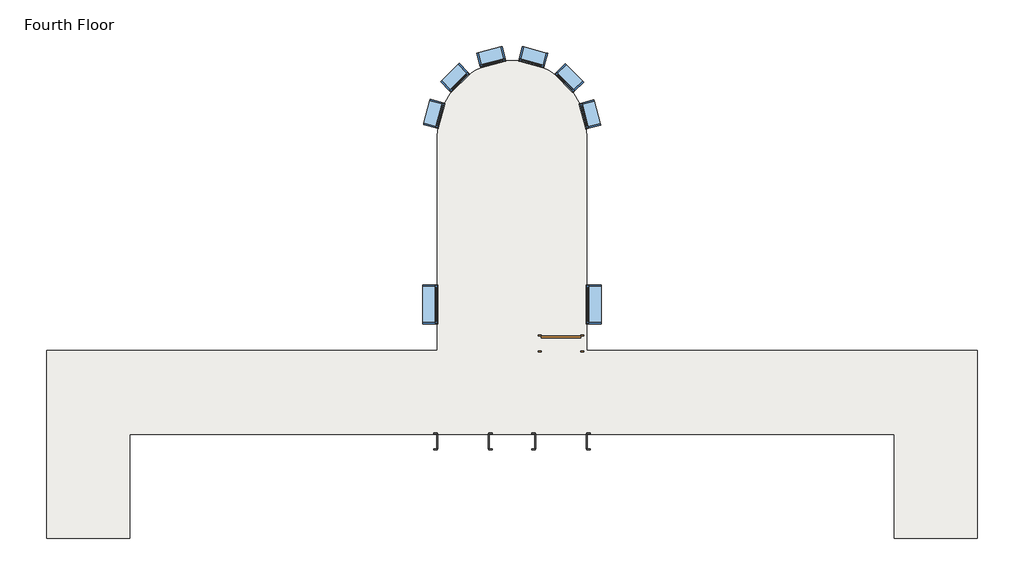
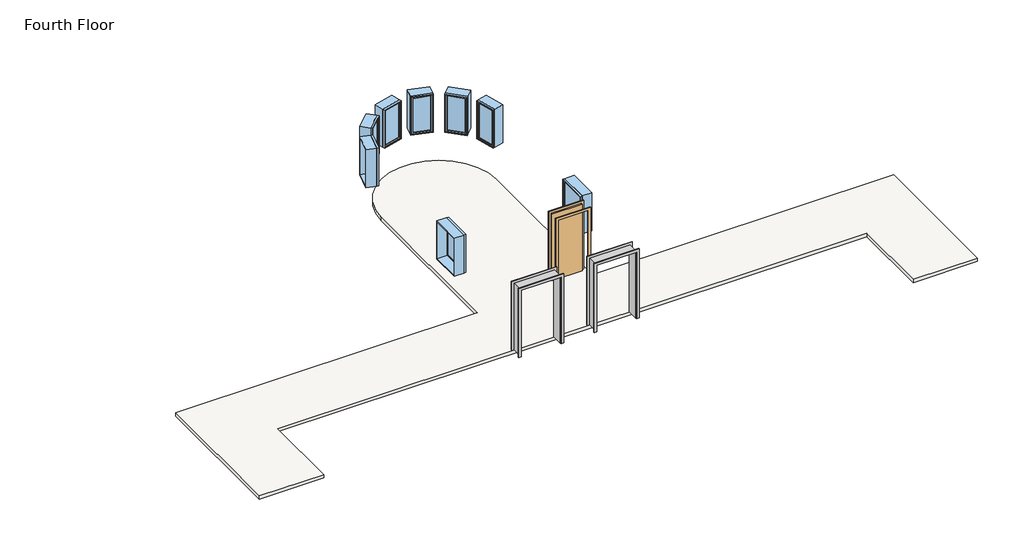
# One storey: 8 windows, 2 proxies, 1 door, 1 slab.
"""IFC4 building model written with IfcOpenShell, lengths in millimetres."""

from ifc_helpers import new_model, si_unit, point, frame, frame_2d, origin, place, context, project, spatial, polyline, circle_curve, trimmed, segment, composite_curve, outline, extrude, transform, mapped, element, save
from components import proxy_c3589814, door_632be17d, window_60baf983, window_15c49d37

model = new_model("IFC4")

# Units and contexts
model_context = context("Model", 3, world=origin())
ifc_project = project(units=[si_unit("LENGTHUNIT", "METRE", prefix="MILLI")], contexts=[model_context])

# Site, building, storey
site = spatial("IfcSite", under=ifc_project)
building = spatial("IfcBuilding", under=site)
storey = spatial("IfcBuildingStorey", under=building, Name="Fourth Floor", Elevation=9144.0)

# Proxies
placement = place(None, origin())
proxy_shape = proxy_c3589814(model_context)
element("IfcBuildingElementProxy", 1, Name="Opening-Cased : 48\" x 84\"", ObjectType="Opening-Cased : 48\" x 84\"", at=placement, inside=storey, context=model_context, shape_type="MappedRepresentation", body=[
    mapped(proxy_shape, transform((-7396.8036255, 2429.9758812, 9144.0), x_axis=(-1.0, 0.0, 0.0), y_axis=(0.0, -1.0, 0.0), z_axis=(0.0, 0.0, 1.0))),
])
element("IfcBuildingElementProxy", 2, Name="Opening-Cased : 48\" x 84\"", ObjectType="Opening-Cased : 48\" x 84\"", at=placement, inside=storey, context=model_context, shape_type="MappedRepresentation", body=[
    mapped(proxy_shape, transform((-5110.8036255, 2429.9758812, 9144.0), x_axis=(-1.0, 0.0, 0.0), y_axis=(0.0, -1.0, 0.0), z_axis=(0.0, 0.0, 1.0))),
])

# Door
door_shape = door_632be17d(model_context)
element("IfcDoor", 3, ObjectType="Single-Flush : 36\" x 84\"", at=placement, inside=storey, context=model_context, shape_type="MappedRepresentation", body=[
    mapped(door_shape, transform((-5102.6149687, 4715.9758812, 9144.0), x_axis=(1.0, 0.0, 0.0), y_axis=(0.0, 1.0, 0.0), z_axis=(0.0, 0.0, 1.0))),
])

# Slab
element("IfcSlab", 4, ObjectType="LW Concrete on Metal Deck", at=placement, inside=storey, context=model_context, shape_type="SweptSolid", body=[
    extrude(outline(composite_curve([segment(polyline([(-4504.1274687, 9592.7758812), (-4504.1274687, 4552.4633812), (4627.1725313, 4552.4633812), (4627.1725313, 167.7883812), (2680.8975313, 167.7883812), (2680.8975313, 2593.4883812), (-15172.1274687, 2593.4883812), (-15172.1274687, 167.7883812), (-17118.4024687, 167.7883812), (-17118.4024687, 4552.4633812), (-7987.1024687, 4552.4633812), (-7987.1024687, 9592.7758812)]), True, "CONTINUOUS"), segment(trimmed(circle_curve(frame_2d((-6245.6149687, 9592.7758812)), 1741.4875), [point((-7987.1024687, 9592.7758812))], [point((-4504.1274687, 9592.7758812))], False, "CARTESIAN"), True, "CONTINUOUS")], self_intersect=False)), frame((0.0, 0.0, 9039.225), z_axis=(0.0, 0.0, 1.0), x_axis=(1.0, 0.0, 0.0)), (0.0, 0.0, 1.0), 104.775),
])

# Windows
window_shape = window_60baf983(model_context)
element("IfcWindow", 5, ObjectType="Fixed : 24\" x 48\"", at=placement, inside=storey, context=model_context, shape_type="MappedRepresentation", body=[
    mapped(window_shape, transform((-8072.5076754, 10048.7859441, 9144.0), x_axis=(-0.2617614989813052, -0.9651325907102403, 0.0), y_axis=(0.9651325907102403, -0.2617614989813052, 0.0), z_axis=(0.0, 0.0, 1.0))),
])
element("IfcWindow", 6, ObjectType="Fixed : 24\" x 48\"", at=placement, inside=storey, context=model_context, shape_type="MappedRepresentation", body=[
    mapped(window_shape, transform((-7599.7454312, 10901.1385333, 9144.0), x_axis=(-0.7092584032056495, -0.7049485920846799, 0.0), y_axis=(0.7049485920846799, -0.7092584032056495, 0.0), z_axis=(0.0, 0.0, 1.0))),
])
element("IfcWindow", 7, ObjectType="Fixed : 24\" x 48\"", at=placement, inside=storey, context=model_context, shape_type="MappedRepresentation", body=[
    mapped(window_shape, transform((-6764.1450232, 11402.9164066, 9144.0), x_axis=(-0.96671009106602, -0.25587418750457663, 0.0), y_axis=(0.25587418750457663, -0.96671009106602, 0.0), z_axis=(0.0, 0.0, 1.0))),
])
element("IfcWindow", 8, ObjectType="Fixed : 24\" x 48\"", at=placement, inside=storey, context=model_context, shape_type="MappedRepresentation", body=[
    mapped(window_shape, transform((-5789.6049059, 11419.6685878, 9144.0), x_axis=(-0.9651325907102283, 0.2617614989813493, 0.0), y_axis=(-0.2617614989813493, -0.9651325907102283, 0.0), z_axis=(0.0, 0.0, 1.0))),
])
element("IfcWindow", 9, ObjectType="Fixed : 24\" x 48\"", at=placement, inside=storey, context=model_context, shape_type="MappedRepresentation", body=[
    mapped(window_shape, transform((-4937.2523166, 10946.9063437, 9144.0), x_axis=(-0.7049485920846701, 0.7092584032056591, 0.0), y_axis=(-0.7092584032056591, -0.7049485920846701, 0.0), z_axis=(0.0, 0.0, 1.0))),
])
element("IfcWindow", 10, ObjectType="Fixed : 24\" x 48\"", at=placement, inside=storey, context=model_context, shape_type="MappedRepresentation", body=[
    mapped(window_shape, transform((-4435.4744434, 10111.3059357, 9144.0), x_axis=(-0.25587418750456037, 0.9667100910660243, 0.0), y_axis=(-0.9667100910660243, -0.25587418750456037, 0.0), z_axis=(0.0, 0.0, 1.0))),
])
window_2_shape = window_15c49d37(model_context)
element("IfcWindow", 11, ObjectType="Fixed : 36\" x 48\"", at=placement, inside=storey, context=model_context, shape_type="MappedRepresentation", body=[
    mapped(window_2_shape, transform((-8150.6149687, 5592.2758812, 9144.0), x_axis=(0.0, -1.0, 0.0), y_axis=(1.0, 0.0, 0.0), z_axis=(0.0, 0.0, 1.0))),
])
element("IfcWindow", 12, ObjectType="Fixed : 36\" x 48\"", at=placement, inside=storey, context=model_context, shape_type="MappedRepresentation", body=[
    mapped(window_2_shape, transform((-4340.6149687, 5668.4758812, 9144.0), x_axis=(0.0, 1.0, 0.0), y_axis=(-1.0, 0.0, 0.0), z_axis=(0.0, 0.0, 1.0))),
])

save(model, "model.ifc")
